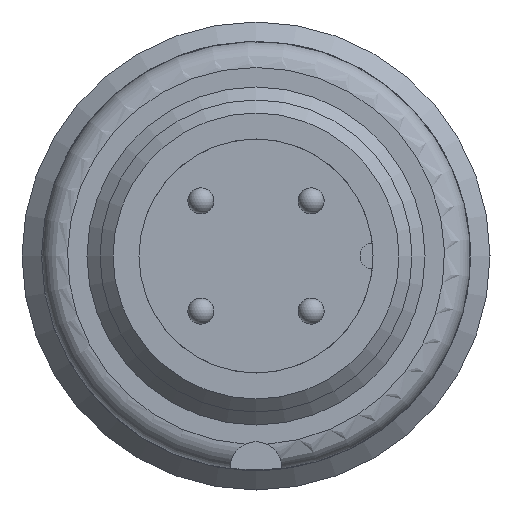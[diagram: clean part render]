
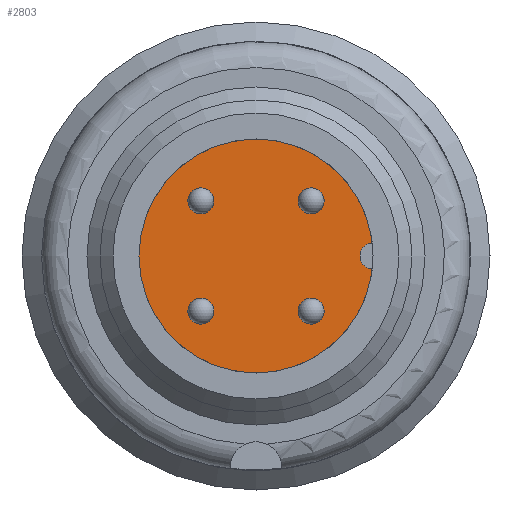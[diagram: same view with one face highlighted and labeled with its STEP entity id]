
A CAD part, left-side view. The second image highlights one B-rep face of the part: STEP entity #2803.
In plain terms, the highlighted planar face has unit normal (-1, 0, 0).
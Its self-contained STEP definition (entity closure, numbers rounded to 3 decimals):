
#2512=CARTESIAN_POINT('',(-42.526,-4.472,0.499));
#2513=VERTEX_POINT('',#2512);
#2522=CARTESIAN_POINT('',(-42.526,-4.472,-0.499));
#2523=VERTEX_POINT('',#2522);
#2524=CARTESIAN_POINT('',(-42.526,-4.5,0.0));
#2525=DIRECTION('',(1.0,0.0,0.0));
#2526=DIRECTION('',(0.0,0.0,-1.0));
#2527=AXIS2_PLACEMENT_3D('',#2524,#2525,#2526);
#2528=CIRCLE('',#2527,0.5);
#2529=EDGE_CURVE('',#2523,#2513,#2528,.T.);
#2573=CARTESIAN_POINT('',(-42.526,0.0,0.0));
#2574=DIRECTION('',(1.0,0.0,0.0));
#2575=DIRECTION('',(0.0,1.0,0.0));
#2576=AXIS2_PLACEMENT_3D('',#2573,#2574,#2575);
#2577=CIRCLE('',#2576,4.5);
#2578=EDGE_CURVE('',#2523,#2513,#2577,.T.);
#2625=CARTESIAN_POINT('',(-42.526,-2.121,-1.621));
#2626=VERTEX_POINT('',#2625);
#2627=CARTESIAN_POINT('',(-42.526,-2.121,-2.121));
#2628=DIRECTION('',(1.0,0.0,0.0));
#2629=DIRECTION('',(0.0,0.0,-1.0));
#2630=AXIS2_PLACEMENT_3D('',#2627,#2628,#2629);
#2631=CIRCLE('',#2630,0.5);
#2632=EDGE_CURVE('',#2626,#2626,#2631,.T.);
#2672=CARTESIAN_POINT('',(-42.526,-2.121,2.621));
#2673=VERTEX_POINT('',#2672);
#2674=CARTESIAN_POINT('',(-42.526,-2.121,2.121));
#2675=DIRECTION('',(1.0,0.0,0.0));
#2676=DIRECTION('',(0.0,0.0,-1.0));
#2677=AXIS2_PLACEMENT_3D('',#2674,#2675,#2676);
#2678=CIRCLE('',#2677,0.5);
#2679=EDGE_CURVE('',#2673,#2673,#2678,.T.);
#2719=CARTESIAN_POINT('',(-42.526,2.121,-1.621));
#2720=VERTEX_POINT('',#2719);
#2721=CARTESIAN_POINT('',(-42.526,2.121,-2.121));
#2722=DIRECTION('',(1.0,0.0,0.0));
#2723=DIRECTION('',(0.0,0.0,-1.0));
#2724=AXIS2_PLACEMENT_3D('',#2721,#2722,#2723);
#2725=CIRCLE('',#2724,0.5);
#2726=EDGE_CURVE('',#2720,#2720,#2725,.T.);
#2766=CARTESIAN_POINT('',(-42.526,2.121,2.621));
#2767=VERTEX_POINT('',#2766);
#2768=CARTESIAN_POINT('',(-42.526,2.121,2.121));
#2769=DIRECTION('',(1.0,0.0,0.0));
#2770=DIRECTION('',(0.0,0.0,-1.0));
#2771=AXIS2_PLACEMENT_3D('',#2768,#2769,#2770);
#2772=CIRCLE('',#2771,0.5);
#2773=EDGE_CURVE('',#2767,#2767,#2772,.T.);
#2782=CARTESIAN_POINT('',(-42.526,2.25,0.0));
#2783=DIRECTION('',(-1.0,0.0,0.0));
#2784=DIRECTION('',(0.0,0.0,1.0));
#2785=AXIS2_PLACEMENT_3D('',#2782,#2783,#2784);
#2786=PLANE('',#2785);
#2787=ORIENTED_EDGE('',*,*,#2529,.T.);
#2788=ORIENTED_EDGE('',*,*,#2578,.F.);
#2789=EDGE_LOOP('',(#2787,#2788));
#2790=FACE_OUTER_BOUND('',#2789,.T.);
#2791=ORIENTED_EDGE('',*,*,#2726,.T.);
#2792=EDGE_LOOP('',(#2791));
#2793=FACE_BOUND('',#2792,.T.);
#2794=ORIENTED_EDGE('',*,*,#2679,.T.);
#2795=EDGE_LOOP('',(#2794));
#2796=FACE_BOUND('',#2795,.T.);
#2797=ORIENTED_EDGE('',*,*,#2773,.T.);
#2798=EDGE_LOOP('',(#2797));
#2799=FACE_BOUND('',#2798,.T.);
#2800=ORIENTED_EDGE('',*,*,#2632,.T.);
#2801=EDGE_LOOP('',(#2800));
#2802=FACE_BOUND('',#2801,.T.);
#2803=ADVANCED_FACE('',(#2790,#2793,#2796,#2799,#2802),#2786,.T.);
